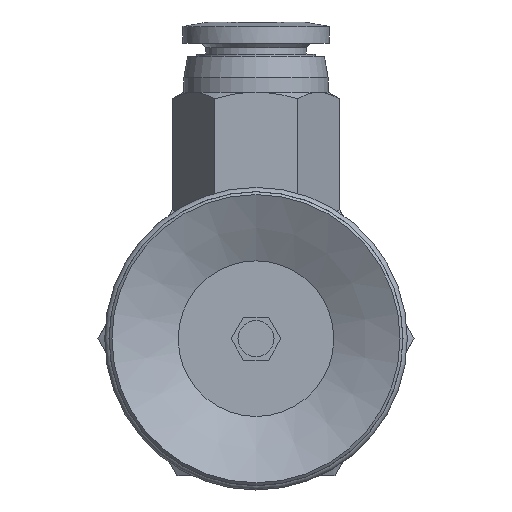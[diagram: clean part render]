
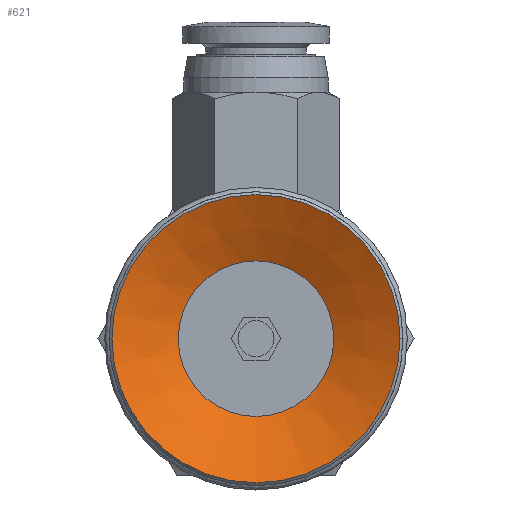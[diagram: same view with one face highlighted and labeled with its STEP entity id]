
A CAD part, front view. The second image highlights one B-rep face of the part: STEP entity #621.
In plain terms, the highlighted conical face has half-angle 63 degrees and reference radius 5.4 mm.
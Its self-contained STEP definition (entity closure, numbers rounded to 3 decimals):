
#621=ADVANCED_FACE('',(#945,#946),#947,.F.);
#945=FACE_BOUND('',#1366,.T.);
#946=FACE_OUTER_BOUND('',#1367,.T.);
#947=CONICAL_SURFACE('',#1368,5.4,1.1);
#1366=EDGE_LOOP('',(#2477));
#1367=EDGE_LOOP('',(#2478));
#1368=AXIS2_PLACEMENT_3D('',#2479,#2480,#2481);
#2477=ORIENTED_EDGE('',*,*,#3056,.F.);
#2478=ORIENTED_EDGE('',*,*,#3057,.T.);
#2479=CARTESIAN_POINT('',(0.0,5.518,0.0));
#2480=DIRECTION('',(-0.0,-1.0,0.));
#2481=DIRECTION('',(0.0,0.,-1.0));
#3056=EDGE_CURVE('',#3506,#3506,#3507,.T.);
#3057=EDGE_CURVE('',#3508,#3508,#3509,.T.);
#3506=VERTEX_POINT('',#4464);
#3507=CIRCLE('',#4465,5.4);
#3508=VERTEX_POINT('',#4466);
#3509=CIRCLE('',#4467,10.0);
#4464=CARTESIAN_POINT('',(0.0,5.518,-5.4));
#4465=AXIS2_PLACEMENT_3D('',#5270,#5271,#5272);
#4466=CARTESIAN_POINT('',(0.0,3.175,-10.0));
#4467=AXIS2_PLACEMENT_3D('',#5273,#5274,#5275);
#5270=CARTESIAN_POINT('',(0.0,5.518,0.0));
#5271=DIRECTION('',(0.0,-1.0,0.));
#5272=DIRECTION('',(0.0,0.,-1.0));
#5273=CARTESIAN_POINT('',(0.0,3.175,0.0));
#5274=DIRECTION('',(0.0,-1.0,0.));
#5275=DIRECTION('',(0.0,0.,-1.0));
